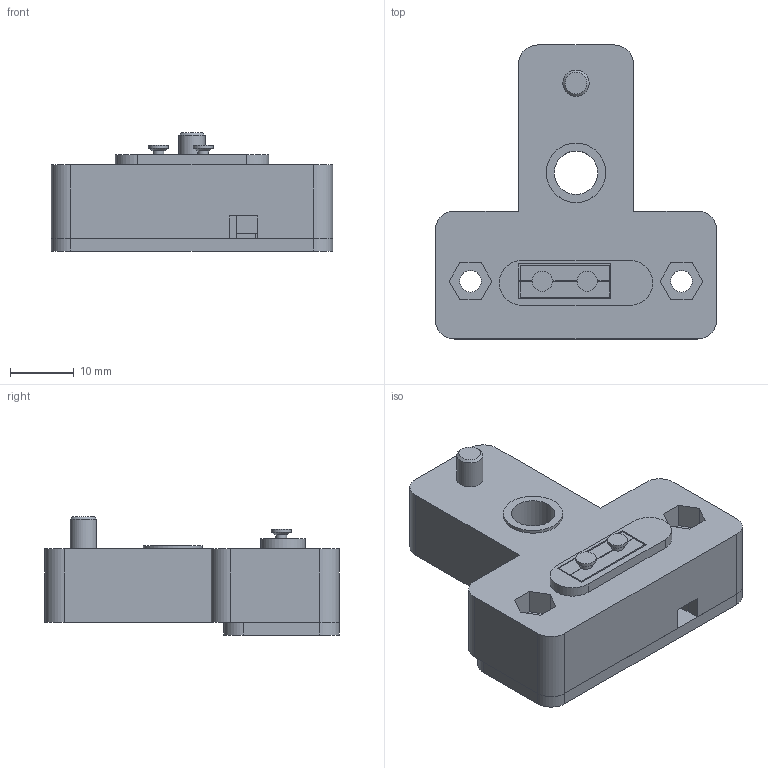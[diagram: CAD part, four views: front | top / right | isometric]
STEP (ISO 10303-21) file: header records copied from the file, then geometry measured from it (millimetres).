
FILE_DESCRIPTION(('Open CASCADE Model'),'2;1');
FILE_NAME('Open CASCADE Shape Model','2026-10-14T21:49:17',('Author'),( 'Open CASCADE'),'Open CASCADE STEP processor 7.9','Open CASCADE 7.9' ,'Unknown');
FILE_SCHEMA(('AUTOMOTIVE_DESIGN { 1 0 10303 214 1 1 1 1 }'));
Length unit declared in the file: millimetre
Products named in the file (7): ELTS_VIVE_Tracker_3_Trigger_Connector_Rev_A; body; insert_front; insert_rear; wire_cover; contact_2_ground; contact_4_trigger
Assembly tree (6 placements, depth 2):
  ELTS_VIVE_Tracker_3_Trigger_Connector_Rev_A
    body
    insert_front
    insert_rear
    wire_cover
    contact_2_ground
    contact_4_trigger
Bounding box: 44 x 46 x 18.5 mm (x, y, z)
Volume: 13054.1 mm3; surface area: 9361.9 mm2
Topology: 6 solids, 6 shells, 182 faces, 470 edges, 310 vertices
Faces by surface type: plane 122, cylinder 55, cone 5
Full cylindrical faces by diameter (mm): 0.762 x2, 1.702 x2, 2.54 x2, 3.175 x2, 3.4 x4, 4.1 x1, 6.8 x1, 9.3 x1, 11.8 x1
Entity records: 11659 total; most frequent: CARTESIAN_POINT 2447, DIRECTION 1566, ORIENTED_EDGE 940, PCURVE 940, DEFINITIONAL_REPRESENTATION 940, LINE 905, VECTOR 905, EDGE_CURVE 470
